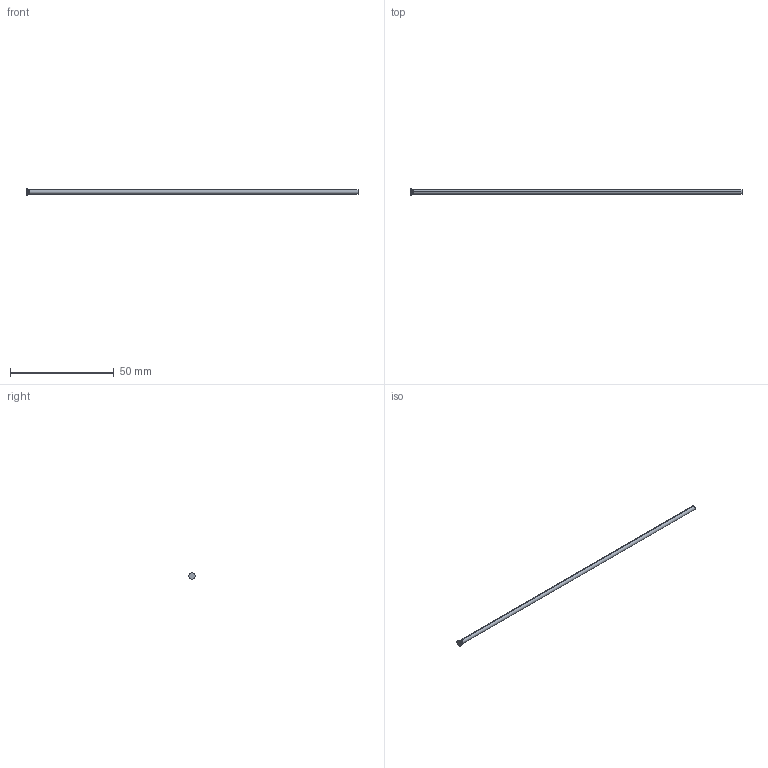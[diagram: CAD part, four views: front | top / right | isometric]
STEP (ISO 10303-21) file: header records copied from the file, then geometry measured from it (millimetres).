
FILE_DESCRIPTION (( 'STEP AP214' ), '1' );
FILE_NAME ('D-2x160.STEP', '2020-06-08T10:37:17', ( 'August' ), ( '' ), 'SwSTEP 2.0', 'SolidWorks 2018', '' );
FILE_SCHEMA (( 'AUTOMOTIVE_DESIGN' ));
Length unit declared in the file: millimetre
Products named in the file (1): D-2x160
Bounding box: 160 x 3 x 3 mm (x, y, z)
Volume: 506.3 mm3; surface area: 1019.5 mm2
Topology: 1 solids, 1 shells, 10 faces, 18 edges, 10 vertices
Faces by surface type: cylinder 4, torus 2, cone 2, plane 2
Entity records: 280 total; most frequent: DIRECTION 52, CARTESIAN_POINT 39, ORIENTED_EDGE 36, AXIS2_PLACEMENT_3D 23, EDGE_CURVE 18, CIRCLE 12, EDGE_LOOP 10, ADVANCED_FACE 10
